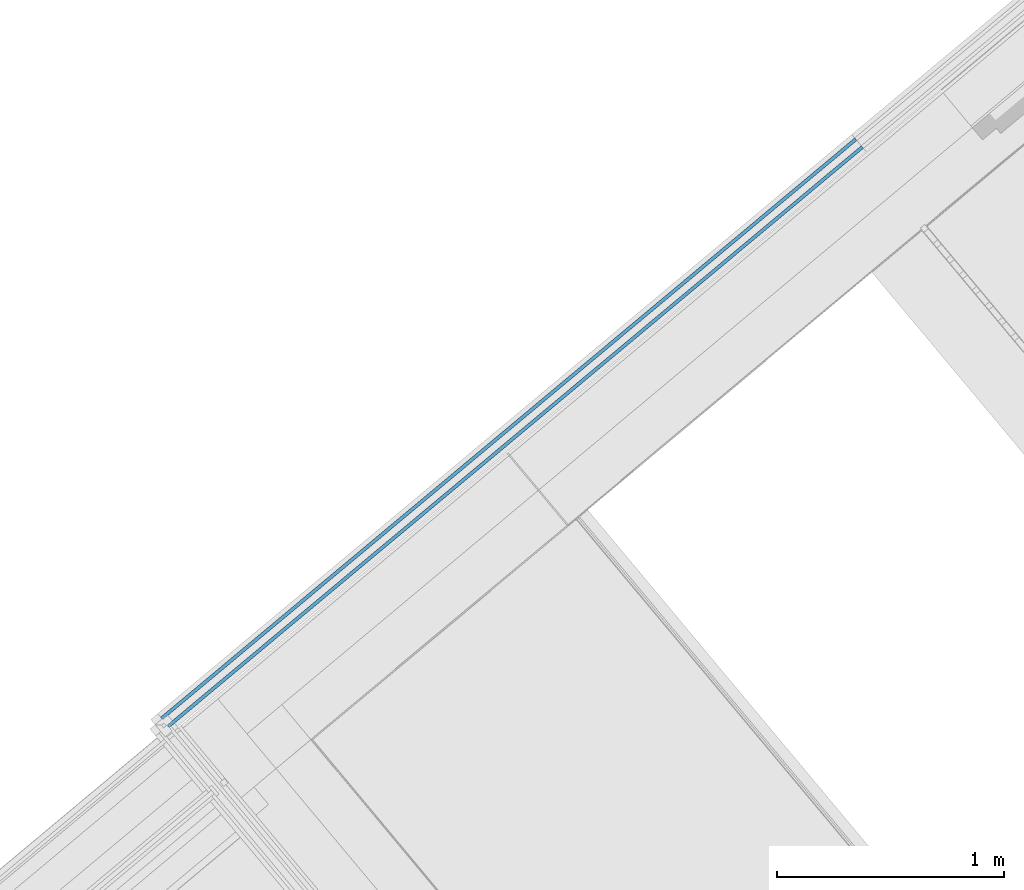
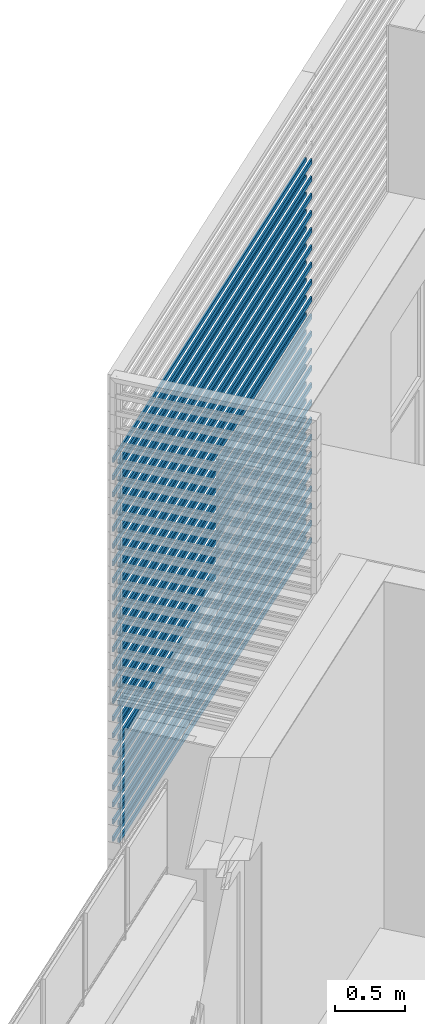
# One storey, part 22 of 47: 23 building element parts, 1 element without a shape of its own.
"""IFC4 building model written with IfcOpenShell, lengths in metres."""

from ifc_helpers import new_model, entity, si_unit, converted_unit, derived_unit, direction, frame, origin_with_axes, place, context, subcontext, project, spatial, polygons, material, type_object, element, aggregate, save


model = new_model("IFC4")

# Units and contexts
model_context = context("Model", 3, precision=1e-05, world=origin_with_axes(), true_north=direction((0.0, 1.0)))
body_context = subcontext(model_context, "Body", "Model", "MODEL_VIEW")
ifc_project = project(units=[si_unit("LENGTHUNIT", "METRE"), si_unit("AREAUNIT", "SQUARE_METRE"), si_unit("VOLUMEUNIT", "CUBIC_METRE"), converted_unit("PLANEANGLEUNIT", "DEGREE", entity("IfcPlaneAngleMeasure", 0.0174532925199), si_unit("PLANEANGLEUNIT", "RADIAN"), dimensions=[0, 0, 0, 0, 0, 0, 0]), converted_unit("TIMEUNIT", "Year", entity("IfcTimeMeasure", 31556926.0), si_unit("TIMEUNIT", "SECOND"), dimensions=[0, 0, 1, 0, 0, 0, 0]), si_unit("MASSUNIT", "GRAM", prefix="KILO"), si_unit("THERMODYNAMICTEMPERATUREUNIT", "DEGREE_CELSIUS"), si_unit("LUMINOUSINTENSITYUNIT", "LUMEN"), si_unit("ENERGYUNIT", "JOULE", prefix="MEGA"), derived_unit("THERMALCONDUCTANCEUNIT", [(si_unit("POWERUNIT", "WATT"), 1), (si_unit("LENGTHUNIT", "METRE"), -1), (si_unit("THERMODYNAMICTEMPERATUREUNIT", "KELVIN"), -1)]), derived_unit("SPECIFICHEATCAPACITYUNIT", [(si_unit("ENERGYUNIT", "JOULE"), 1), (si_unit("MASSUNIT", "GRAM", prefix="KILO"), -1), (si_unit("THERMODYNAMICTEMPERATUREUNIT", "KELVIN"), -1)]), derived_unit("MASSDENSITYUNIT", [(si_unit("MASSUNIT", "GRAM", prefix="KILO"), 1), (si_unit("VOLUMEUNIT", "CUBIC_METRE"), -1)])], contexts=[model_context])

# Site, building, storey
site_placement = place(None, frame((-0.00153261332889, -0.00661245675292, 0.0), z_axis=(0.0, 0.0, 1.0), x_axis=(1.0, 0.0, 0.0)))
site = spatial("IfcSite", under=ifc_project, at=site_placement, Name="Site", CompositionType="ELEMENT")
building_placement = place(site_placement, origin_with_axes())
building = spatial("IfcBuilding", under=site, at=building_placement, Name="Building", CompositionType="ELEMENT")
storey_placement = place(building_placement, frame((0.0, 0.0, 8.66), z_axis=(0.0, 0.0, 1.0), x_axis=(1.0, 0.0, 0.0)))
storey = spatial("IfcBuildingStorey", under=building, at=storey_placement, Name="DG2", CompositionType="ELEMENT", Elevation=8.66)

# Curtain wall, building element parts
curtain_wall_type = type_object("IfcCurtainWallType", Name="Fassadentyp", PredefinedType="NOTDEFINED")
curtain_wall_placement = place(storey_placement, frame((-2.95253507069, 23.8775371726, 0.32), z_axis=(0.0, 0.0, 1.0), x_axis=(1.0, 0.0, 0.0)))
curtain_wall = element("IfcCurtainWall", 1, at=curtain_wall_placement, inside=storey, type_object=curtain_wall_type, Name="Fassade-001", PredefinedType="NOTDEFINED")
ifc_material = material(Name="Blech")
building_element_part_1_placement = place(curtain_wall_placement, origin_with_axes())
building_element_part_1 = element("IfcBuildingElementPart", 2, at=building_element_part_1_placement, material=ifc_material, Name="Blech", PredefinedType="NOTDEFINED", context=body_context, shape_type="Tessellation", body=[
    polygons([(-1.51294866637, -1.28196990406, 0.3), (-1.51294866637, -1.28196990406, 0.32), (1.54752517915, 1.27174910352, 0.32), (1.54752517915, 1.27174910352, 0.3), (1.54752517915, 1.27174910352, 0.28), (-1.51294866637, -1.28196990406, 0.28), (-1.50333851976, -1.29348706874, 0.28), (-1.50333851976, -1.29348706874, 0.32), (1.55713532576, 1.26023193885, 0.32), (1.55713532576, 1.26023193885, 0.28)], [[[1, 2, 3, 4, 5, 6]], [[6, 7, 8, 2, 1]], [[3, 2, 8, 9]], [[4, 3, 9, 10, 5]], [[5, 10, 7, 6]], [[10, 9, 8, 7]]], closed=True),
    polygons([(1.52830488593, 1.29478343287, 0.28), (1.51869473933, 1.30630059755, 0.28), (1.51869473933, 1.30630059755, 0.32), (1.52830488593, 1.29478343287, 0.32), (1.52830488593, 1.29478343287, 0.3), (-1.53216895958, -1.25893557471, 0.28), (-1.54177910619, -1.24741841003, 0.28), (-1.54177910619, -1.24741841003, 0.32), (-1.53216895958, -1.25893557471, 0.32), (-1.53216895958, -1.25893557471, 0.3)], [[[1, 2, 3, 4, 5]], [[6, 7, 2, 1]], [[3, 2, 7, 8]], [[9, 4, 3, 8]], [[5, 4, 9, 10, 6, 1]], [[10, 9, 8, 7, 6]]], closed=True),
])
building_element_part_2_placement = place(curtain_wall_placement, origin_with_axes())
building_element_part_2 = element("IfcBuildingElementPart", 3, at=building_element_part_2_placement, material=ifc_material, Name="Blech", PredefinedType="NOTDEFINED", context=body_context, shape_type="Tessellation", body=[
    polygons([(-1.51294866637, -1.28196990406, 0.45), (-1.51294866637, -1.28196990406, 0.47), (1.54752517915, 1.27174910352, 0.47), (1.54752517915, 1.27174910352, 0.45), (1.54752517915, 1.27174910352, 0.43), (-1.51294866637, -1.28196990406, 0.43), (-1.50333851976, -1.29348706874, 0.43), (-1.50333851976, -1.29348706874, 0.47), (1.55713532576, 1.26023193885, 0.47), (1.55713532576, 1.26023193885, 0.43)], [[[1, 2, 3, 4, 5, 6]], [[6, 7, 8, 2, 1]], [[3, 2, 8, 9]], [[4, 3, 9, 10, 5]], [[5, 10, 7, 6]], [[10, 9, 8, 7]]], closed=True),
    polygons([(1.52830488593, 1.29478343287, 0.43), (1.51869473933, 1.30630059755, 0.43), (1.51869473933, 1.30630059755, 0.47), (1.52830488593, 1.29478343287, 0.47), (1.52830488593, 1.29478343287, 0.45), (-1.53216895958, -1.25893557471, 0.43), (-1.54177910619, -1.24741841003, 0.43), (-1.54177910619, -1.24741841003, 0.47), (-1.53216895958, -1.25893557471, 0.47), (-1.53216895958, -1.25893557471, 0.45)], [[[1, 2, 3, 4, 5]], [[6, 7, 2, 1]], [[3, 2, 7, 8]], [[9, 4, 3, 8]], [[5, 4, 9, 10, 6, 1]], [[10, 9, 8, 7, 6]]], closed=True),
])
building_element_part_3_placement = place(curtain_wall_placement, origin_with_axes())
building_element_part_3 = element("IfcBuildingElementPart", 4, at=building_element_part_3_placement, material=ifc_material, Name="Blech", PredefinedType="NOTDEFINED", context=body_context, shape_type="Tessellation", body=[
    polygons([(-1.51294866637, -1.28196990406, 0.6), (-1.51294866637, -1.28196990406, 0.62), (1.54752517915, 1.27174910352, 0.62), (1.54752517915, 1.27174910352, 0.6), (1.54752517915, 1.27174910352, 0.58), (-1.51294866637, -1.28196990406, 0.58), (-1.50333851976, -1.29348706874, 0.58), (-1.50333851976, -1.29348706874, 0.62), (1.55713532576, 1.26023193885, 0.62), (1.55713532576, 1.26023193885, 0.58)], [[[1, 2, 3, 4, 5, 6]], [[6, 7, 8, 2, 1]], [[3, 2, 8, 9]], [[4, 3, 9, 10, 5]], [[5, 10, 7, 6]], [[10, 9, 8, 7]]], closed=True),
    polygons([(1.52830488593, 1.29478343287, 0.58), (1.51869473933, 1.30630059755, 0.58), (1.51869473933, 1.30630059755, 0.62), (1.52830488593, 1.29478343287, 0.62), (1.52830488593, 1.29478343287, 0.6), (-1.53216895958, -1.25893557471, 0.58), (-1.54177910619, -1.24741841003, 0.58), (-1.54177910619, -1.24741841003, 0.62), (-1.53216895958, -1.25893557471, 0.62), (-1.53216895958, -1.25893557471, 0.6)], [[[1, 2, 3, 4, 5]], [[6, 7, 2, 1]], [[3, 2, 7, 8]], [[9, 4, 3, 8]], [[5, 4, 9, 10, 6, 1]], [[10, 9, 8, 7, 6]]], closed=True),
])
building_element_part_4_placement = place(curtain_wall_placement, origin_with_axes())
building_element_part_4 = element("IfcBuildingElementPart", 5, at=building_element_part_4_placement, material=ifc_material, Name="Blech", PredefinedType="NOTDEFINED", context=body_context, shape_type="Tessellation", body=[
    polygons([(-1.51294866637, -1.28196990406, 3.0), (-1.51294866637, -1.28196990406, 3.02), (1.54752517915, 1.27174910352, 3.02), (1.54752517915, 1.27174910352, 3.0), (1.54752517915, 1.27174910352, 2.98), (-1.51294866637, -1.28196990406, 2.98), (-1.50333851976, -1.29348706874, 2.98), (-1.50333851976, -1.29348706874, 3.02), (1.55713532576, 1.26023193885, 3.02), (1.55713532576, 1.26023193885, 2.98)], [[[1, 2, 3, 4, 5, 6]], [[6, 7, 8, 2, 1]], [[3, 2, 8, 9]], [[4, 3, 9, 10, 5]], [[5, 10, 7, 6]], [[10, 9, 8, 7]]], closed=True),
    polygons([(1.52830488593, 1.29478343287, 2.98), (1.51869473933, 1.30630059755, 2.98), (1.51869473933, 1.30630059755, 3.02), (1.52830488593, 1.29478343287, 3.02), (1.52830488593, 1.29478343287, 3.0), (-1.53216895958, -1.25893557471, 2.98), (-1.54177910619, -1.24741841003, 2.98), (-1.54177910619, -1.24741841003, 3.02), (-1.53216895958, -1.25893557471, 3.02), (-1.53216895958, -1.25893557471, 3.0)], [[[1, 2, 3, 4, 5]], [[6, 7, 2, 1]], [[3, 2, 7, 8]], [[9, 4, 3, 8]], [[5, 4, 9, 10, 6, 1]], [[10, 9, 8, 7, 6]]], closed=True),
])
building_element_part_5_placement = place(curtain_wall_placement, origin_with_axes())
building_element_part_5 = element("IfcBuildingElementPart", 6, at=building_element_part_5_placement, material=ifc_material, Name="Blech", PredefinedType="NOTDEFINED", context=body_context, shape_type="Tessellation", body=[
    polygons([(-1.51294866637, -1.28196990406, 2.85), (-1.51294866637, -1.28196990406, 2.87), (1.54752517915, 1.27174910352, 2.87), (1.54752517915, 1.27174910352, 2.85), (1.54752517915, 1.27174910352, 2.83), (-1.51294866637, -1.28196990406, 2.83), (-1.50333851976, -1.29348706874, 2.83), (-1.50333851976, -1.29348706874, 2.87), (1.55713532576, 1.26023193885, 2.87), (1.55713532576, 1.26023193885, 2.83)], [[[1, 2, 3, 4, 5, 6]], [[6, 7, 8, 2, 1]], [[3, 2, 8, 9]], [[4, 3, 9, 10, 5]], [[5, 10, 7, 6]], [[10, 9, 8, 7]]], closed=True),
    polygons([(1.52830488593, 1.29478343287, 2.83), (1.51869473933, 1.30630059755, 2.83), (1.51869473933, 1.30630059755, 2.87), (1.52830488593, 1.29478343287, 2.87), (1.52830488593, 1.29478343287, 2.85), (-1.53216895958, -1.25893557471, 2.83), (-1.54177910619, -1.24741841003, 2.83), (-1.54177910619, -1.24741841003, 2.87), (-1.53216895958, -1.25893557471, 2.87), (-1.53216895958, -1.25893557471, 2.85)], [[[1, 2, 3, 4, 5]], [[6, 7, 2, 1]], [[3, 2, 7, 8]], [[9, 4, 3, 8]], [[5, 4, 9, 10, 6, 1]], [[10, 9, 8, 7, 6]]], closed=True),
])
building_element_part_6_placement = place(curtain_wall_placement, origin_with_axes())
building_element_part_6 = element("IfcBuildingElementPart", 7, at=building_element_part_6_placement, material=ifc_material, Name="Blech", PredefinedType="NOTDEFINED", context=body_context, shape_type="Tessellation", body=[
    polygons([(-1.51294866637, -1.28196990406, 0.75), (-1.51294866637, -1.28196990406, 0.77), (1.54752517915, 1.27174910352, 0.77), (1.54752517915, 1.27174910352, 0.75), (1.54752517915, 1.27174910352, 0.73), (-1.51294866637, -1.28196990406, 0.73), (-1.50333851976, -1.29348706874, 0.73), (-1.50333851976, -1.29348706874, 0.77), (1.55713532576, 1.26023193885, 0.77), (1.55713532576, 1.26023193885, 0.73)], [[[1, 2, 3, 4, 5, 6]], [[6, 7, 8, 2, 1]], [[3, 2, 8, 9]], [[4, 3, 9, 10, 5]], [[5, 10, 7, 6]], [[10, 9, 8, 7]]], closed=True),
    polygons([(1.52830488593, 1.29478343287, 0.73), (1.51869473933, 1.30630059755, 0.73), (1.51869473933, 1.30630059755, 0.77), (1.52830488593, 1.29478343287, 0.77), (1.52830488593, 1.29478343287, 0.75), (-1.53216895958, -1.25893557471, 0.73), (-1.54177910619, -1.24741841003, 0.73), (-1.54177910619, -1.24741841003, 0.77), (-1.53216895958, -1.25893557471, 0.77), (-1.53216895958, -1.25893557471, 0.75)], [[[1, 2, 3, 4, 5]], [[6, 7, 2, 1]], [[3, 2, 7, 8]], [[9, 4, 3, 8]], [[5, 4, 9, 10, 6, 1]], [[10, 9, 8, 7, 6]]], closed=True),
])
building_element_part_7_placement = place(curtain_wall_placement, origin_with_axes())
building_element_part_7 = element("IfcBuildingElementPart", 8, at=building_element_part_7_placement, material=ifc_material, Name="Blech", PredefinedType="NOTDEFINED", context=body_context, shape_type="Tessellation", body=[
    polygons([(-1.51294866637, -1.28196990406, 2.25), (-1.51294866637, -1.28196990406, 2.27), (1.54752517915, 1.27174910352, 2.27), (1.54752517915, 1.27174910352, 2.25), (1.54752517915, 1.27174910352, 2.23), (-1.51294866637, -1.28196990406, 2.23), (-1.50333851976, -1.29348706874, 2.23), (-1.50333851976, -1.29348706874, 2.27), (1.55713532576, 1.26023193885, 2.27), (1.55713532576, 1.26023193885, 2.23)], [[[1, 2, 3, 4, 5, 6]], [[6, 7, 8, 2, 1]], [[3, 2, 8, 9]], [[4, 3, 9, 10, 5]], [[5, 10, 7, 6]], [[10, 9, 8, 7]]], closed=True),
    polygons([(1.52830488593, 1.29478343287, 2.23), (1.51869473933, 1.30630059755, 2.23), (1.51869473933, 1.30630059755, 2.27), (1.52830488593, 1.29478343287, 2.27), (1.52830488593, 1.29478343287, 2.25), (-1.53216895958, -1.25893557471, 2.23), (-1.54177910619, -1.24741841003, 2.23), (-1.54177910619, -1.24741841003, 2.27), (-1.53216895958, -1.25893557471, 2.27), (-1.53216895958, -1.25893557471, 2.25)], [[[1, 2, 3, 4, 5]], [[6, 7, 2, 1]], [[3, 2, 7, 8]], [[9, 4, 3, 8]], [[5, 4, 9, 10, 6, 1]], [[10, 9, 8, 7, 6]]], closed=True),
])
building_element_part_8_placement = place(curtain_wall_placement, origin_with_axes())
building_element_part_8 = element("IfcBuildingElementPart", 9, at=building_element_part_8_placement, material=ifc_material, Name="Blech", PredefinedType="NOTDEFINED", context=body_context, shape_type="Tessellation", body=[
    polygons([(-1.51294866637, -1.28196990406, 0.9), (-1.51294866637, -1.28196990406, 0.92), (1.54752517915, 1.27174910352, 0.92), (1.54752517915, 1.27174910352, 0.9), (1.54752517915, 1.27174910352, 0.88), (-1.51294866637, -1.28196990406, 0.88), (-1.50333851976, -1.29348706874, 0.88), (-1.50333851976, -1.29348706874, 0.92), (1.55713532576, 1.26023193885, 0.92), (1.55713532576, 1.26023193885, 0.88)], [[[1, 2, 3, 4, 5, 6]], [[6, 7, 8, 2, 1]], [[3, 2, 8, 9]], [[4, 3, 9, 10, 5]], [[5, 10, 7, 6]], [[10, 9, 8, 7]]], closed=True),
    polygons([(1.52830488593, 1.29478343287, 0.88), (1.51869473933, 1.30630059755, 0.88), (1.51869473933, 1.30630059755, 0.92), (1.52830488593, 1.29478343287, 0.92), (1.52830488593, 1.29478343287, 0.9), (-1.53216895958, -1.25893557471, 0.88), (-1.54177910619, -1.24741841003, 0.88), (-1.54177910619, -1.24741841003, 0.92), (-1.53216895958, -1.25893557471, 0.92), (-1.53216895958, -1.25893557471, 0.9)], [[[1, 2, 3, 4, 5]], [[6, 7, 2, 1]], [[3, 2, 7, 8]], [[9, 4, 3, 8]], [[5, 4, 9, 10, 6, 1]], [[10, 9, 8, 7, 6]]], closed=True),
])
building_element_part_9_placement = place(curtain_wall_placement, origin_with_axes())
building_element_part_9 = element("IfcBuildingElementPart", 10, at=building_element_part_9_placement, material=ifc_material, Name="Blech", PredefinedType="NOTDEFINED", context=body_context, shape_type="Tessellation", body=[
    polygons([(-1.51294866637, -1.28196990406, 1.05), (-1.51294866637, -1.28196990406, 1.07), (1.54752517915, 1.27174910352, 1.07), (1.54752517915, 1.27174910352, 1.05), (1.54752517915, 1.27174910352, 1.03), (-1.51294866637, -1.28196990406, 1.03), (-1.50333851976, -1.29348706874, 1.03), (-1.50333851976, -1.29348706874, 1.07), (1.55713532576, 1.26023193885, 1.07), (1.55713532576, 1.26023193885, 1.03)], [[[1, 2, 3, 4, 5, 6]], [[6, 7, 8, 2, 1]], [[3, 2, 8, 9]], [[4, 3, 9, 10, 5]], [[5, 10, 7, 6]], [[10, 9, 8, 7]]], closed=True),
    polygons([(1.52830488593, 1.29478343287, 1.03), (1.51869473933, 1.30630059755, 1.03), (1.51869473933, 1.30630059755, 1.07), (1.52830488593, 1.29478343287, 1.07), (1.52830488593, 1.29478343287, 1.05), (-1.53216895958, -1.25893557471, 1.03), (-1.54177910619, -1.24741841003, 1.03), (-1.54177910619, -1.24741841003, 1.07), (-1.53216895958, -1.25893557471, 1.07), (-1.53216895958, -1.25893557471, 1.05)], [[[1, 2, 3, 4, 5]], [[6, 7, 2, 1]], [[3, 2, 7, 8]], [[9, 4, 3, 8]], [[5, 4, 9, 10, 6, 1]], [[10, 9, 8, 7, 6]]], closed=True),
])
building_element_part_10_placement = place(curtain_wall_placement, origin_with_axes())
building_element_part_10 = element("IfcBuildingElementPart", 11, at=building_element_part_10_placement, material=ifc_material, Name="Blech", PredefinedType="NOTDEFINED", context=body_context, shape_type="Tessellation", body=[
    polygons([(-1.51294866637, -1.28196990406, 1.2), (-1.51294866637, -1.28196990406, 1.22), (1.54752517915, 1.27174910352, 1.22), (1.54752517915, 1.27174910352, 1.2), (1.54752517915, 1.27174910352, 1.18), (-1.51294866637, -1.28196990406, 1.18), (-1.50333851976, -1.29348706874, 1.18), (-1.50333851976, -1.29348706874, 1.22), (1.55713532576, 1.26023193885, 1.22), (1.55713532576, 1.26023193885, 1.18)], [[[1, 2, 3, 4, 5, 6]], [[6, 7, 8, 2, 1]], [[3, 2, 8, 9]], [[4, 3, 9, 10, 5]], [[5, 10, 7, 6]], [[10, 9, 8, 7]]], closed=True),
    polygons([(1.52830488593, 1.29478343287, 1.18), (1.51869473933, 1.30630059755, 1.18), (1.51869473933, 1.30630059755, 1.22), (1.52830488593, 1.29478343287, 1.22), (1.52830488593, 1.29478343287, 1.2), (-1.53216895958, -1.25893557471, 1.18), (-1.54177910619, -1.24741841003, 1.18), (-1.54177910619, -1.24741841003, 1.22), (-1.53216895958, -1.25893557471, 1.22), (-1.53216895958, -1.25893557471, 1.2)], [[[1, 2, 3, 4, 5]], [[6, 7, 2, 1]], [[3, 2, 7, 8]], [[9, 4, 3, 8]], [[5, 4, 9, 10, 6, 1]], [[10, 9, 8, 7, 6]]], closed=True),
])
building_element_part_11_placement = place(curtain_wall_placement, origin_with_axes())
building_element_part_11 = element("IfcBuildingElementPart", 12, at=building_element_part_11_placement, material=ifc_material, Name="Blech", PredefinedType="NOTDEFINED", context=body_context, shape_type="Tessellation", body=[
    polygons([(-1.51294866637, -1.28196990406, 2.7), (-1.51294866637, -1.28196990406, 2.72), (1.54752517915, 1.27174910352, 2.72), (1.54752517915, 1.27174910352, 2.7), (1.54752517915, 1.27174910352, 2.68), (-1.51294866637, -1.28196990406, 2.68), (-1.50333851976, -1.29348706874, 2.68), (-1.50333851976, -1.29348706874, 2.72), (1.55713532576, 1.26023193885, 2.72), (1.55713532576, 1.26023193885, 2.68)], [[[1, 2, 3, 4, 5, 6]], [[6, 7, 8, 2, 1]], [[3, 2, 8, 9]], [[4, 3, 9, 10, 5]], [[5, 10, 7, 6]], [[10, 9, 8, 7]]], closed=True),
    polygons([(1.52830488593, 1.29478343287, 2.68), (1.51869473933, 1.30630059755, 2.68), (1.51869473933, 1.30630059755, 2.72), (1.52830488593, 1.29478343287, 2.72), (1.52830488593, 1.29478343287, 2.7), (-1.53216895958, -1.25893557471, 2.68), (-1.54177910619, -1.24741841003, 2.68), (-1.54177910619, -1.24741841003, 2.72), (-1.53216895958, -1.25893557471, 2.72), (-1.53216895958, -1.25893557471, 2.7)], [[[1, 2, 3, 4, 5]], [[6, 7, 2, 1]], [[3, 2, 7, 8]], [[9, 4, 3, 8]], [[5, 4, 9, 10, 6, 1]], [[10, 9, 8, 7, 6]]], closed=True),
])
building_element_part_12_placement = place(curtain_wall_placement, origin_with_axes())
building_element_part_12 = element("IfcBuildingElementPart", 13, at=building_element_part_12_placement, material=ifc_material, Name="Blech", PredefinedType="NOTDEFINED", context=body_context, shape_type="Tessellation", body=[
    polygons([(-1.51294866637, -1.28196990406, 1.35), (-1.51294866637, -1.28196990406, 1.37), (1.54752517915, 1.27174910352, 1.37), (1.54752517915, 1.27174910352, 1.35), (1.54752517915, 1.27174910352, 1.33), (-1.51294866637, -1.28196990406, 1.33), (-1.50333851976, -1.29348706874, 1.33), (-1.50333851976, -1.29348706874, 1.37), (1.55713532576, 1.26023193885, 1.37), (1.55713532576, 1.26023193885, 1.33)], [[[1, 2, 3, 4, 5, 6]], [[6, 7, 8, 2, 1]], [[3, 2, 8, 9]], [[4, 3, 9, 10, 5]], [[5, 10, 7, 6]], [[10, 9, 8, 7]]], closed=True),
    polygons([(1.52830488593, 1.29478343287, 1.33), (1.51869473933, 1.30630059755, 1.33), (1.51869473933, 1.30630059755, 1.37), (1.52830488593, 1.29478343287, 1.37), (1.52830488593, 1.29478343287, 1.35), (-1.53216895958, -1.25893557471, 1.33), (-1.54177910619, -1.24741841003, 1.33), (-1.54177910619, -1.24741841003, 1.37), (-1.53216895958, -1.25893557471, 1.37), (-1.53216895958, -1.25893557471, 1.35)], [[[1, 2, 3, 4, 5]], [[6, 7, 2, 1]], [[3, 2, 7, 8]], [[9, 4, 3, 8]], [[5, 4, 9, 10, 6, 1]], [[10, 9, 8, 7, 6]]], closed=True),
])
building_element_part_13_placement = place(curtain_wall_placement, origin_with_axes())
building_element_part_13 = element("IfcBuildingElementPart", 14, at=building_element_part_13_placement, material=ifc_material, Name="Blech", PredefinedType="NOTDEFINED", context=body_context, shape_type="Tessellation", body=[
    polygons([(-1.51294866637, -1.28196990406, 1.5), (-1.51294866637, -1.28196990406, 1.52), (1.54752517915, 1.27174910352, 1.52), (1.54752517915, 1.27174910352, 1.5), (1.54752517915, 1.27174910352, 1.48), (-1.51294866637, -1.28196990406, 1.48), (-1.50333851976, -1.29348706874, 1.48), (-1.50333851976, -1.29348706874, 1.52), (1.55713532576, 1.26023193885, 1.52), (1.55713532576, 1.26023193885, 1.48)], [[[1, 2, 3, 4, 5, 6]], [[6, 7, 8, 2, 1]], [[3, 2, 8, 9]], [[4, 3, 9, 10, 5]], [[5, 10, 7, 6]], [[10, 9, 8, 7]]], closed=True),
    polygons([(1.52830488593, 1.29478343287, 1.48), (1.51869473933, 1.30630059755, 1.48), (1.51869473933, 1.30630059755, 1.52), (1.52830488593, 1.29478343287, 1.52), (1.52830488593, 1.29478343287, 1.5), (-1.53216895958, -1.25893557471, 1.48), (-1.54177910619, -1.24741841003, 1.48), (-1.54177910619, -1.24741841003, 1.52), (-1.53216895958, -1.25893557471, 1.52), (-1.53216895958, -1.25893557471, 1.5)], [[[1, 2, 3, 4, 5]], [[6, 7, 2, 1]], [[3, 2, 7, 8]], [[9, 4, 3, 8]], [[5, 4, 9, 10, 6, 1]], [[10, 9, 8, 7, 6]]], closed=True),
])
building_element_part_14_placement = place(curtain_wall_placement, origin_with_axes())
building_element_part_14 = element("IfcBuildingElementPart", 15, at=building_element_part_14_placement, material=ifc_material, Name="Blech", PredefinedType="NOTDEFINED", context=body_context, shape_type="Tessellation", body=[
    polygons([(-1.51294866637, -1.28196990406, 1.65), (-1.51294866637, -1.28196990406, 1.67), (1.54752517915, 1.27174910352, 1.67), (1.54752517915, 1.27174910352, 1.65), (1.54752517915, 1.27174910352, 1.63), (-1.51294866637, -1.28196990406, 1.63), (-1.50333851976, -1.29348706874, 1.63), (-1.50333851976, -1.29348706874, 1.67), (1.55713532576, 1.26023193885, 1.67), (1.55713532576, 1.26023193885, 1.63)], [[[1, 2, 3, 4, 5, 6]], [[6, 7, 8, 2, 1]], [[3, 2, 8, 9]], [[4, 3, 9, 10, 5]], [[5, 10, 7, 6]], [[10, 9, 8, 7]]], closed=True),
    polygons([(1.52830488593, 1.29478343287, 1.63), (1.51869473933, 1.30630059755, 1.63), (1.51869473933, 1.30630059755, 1.67), (1.52830488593, 1.29478343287, 1.67), (1.52830488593, 1.29478343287, 1.65), (-1.53216895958, -1.25893557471, 1.63), (-1.54177910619, -1.24741841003, 1.63), (-1.54177910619, -1.24741841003, 1.67), (-1.53216895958, -1.25893557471, 1.67), (-1.53216895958, -1.25893557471, 1.65)], [[[1, 2, 3, 4, 5]], [[6, 7, 2, 1]], [[3, 2, 7, 8]], [[9, 4, 3, 8]], [[5, 4, 9, 10, 6, 1]], [[10, 9, 8, 7, 6]]], closed=True),
])
building_element_part_15_placement = place(curtain_wall_placement, origin_with_axes())
building_element_part_15 = element("IfcBuildingElementPart", 16, at=building_element_part_15_placement, material=ifc_material, Name="Blech", PredefinedType="NOTDEFINED", context=body_context, shape_type="Tessellation", body=[
    polygons([(-1.51294866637, -1.28196990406, 2.55), (-1.51294866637, -1.28196990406, 2.57), (1.54752517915, 1.27174910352, 2.57), (1.54752517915, 1.27174910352, 2.55), (1.54752517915, 1.27174910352, 2.53), (-1.51294866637, -1.28196990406, 2.53), (-1.50333851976, -1.29348706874, 2.53), (-1.50333851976, -1.29348706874, 2.57), (1.55713532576, 1.26023193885, 2.57), (1.55713532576, 1.26023193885, 2.53)], [[[1, 2, 3, 4, 5, 6]], [[6, 7, 8, 2, 1]], [[3, 2, 8, 9]], [[4, 3, 9, 10, 5]], [[5, 10, 7, 6]], [[10, 9, 8, 7]]], closed=True),
    polygons([(1.52830488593, 1.29478343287, 2.53), (1.51869473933, 1.30630059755, 2.53), (1.51869473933, 1.30630059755, 2.57), (1.52830488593, 1.29478343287, 2.57), (1.52830488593, 1.29478343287, 2.55), (-1.53216895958, -1.25893557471, 2.53), (-1.54177910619, -1.24741841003, 2.53), (-1.54177910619, -1.24741841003, 2.57), (-1.53216895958, -1.25893557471, 2.57), (-1.53216895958, -1.25893557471, 2.55)], [[[1, 2, 3, 4, 5]], [[6, 7, 2, 1]], [[3, 2, 7, 8]], [[9, 4, 3, 8]], [[5, 4, 9, 10, 6, 1]], [[10, 9, 8, 7, 6]]], closed=True),
])
building_element_part_16_placement = place(curtain_wall_placement, origin_with_axes())
building_element_part_16 = element("IfcBuildingElementPart", 17, at=building_element_part_16_placement, material=ifc_material, Name="Blech", PredefinedType="NOTDEFINED", context=body_context, shape_type="Tessellation", body=[
    polygons([(-1.51294866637, -1.28196990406, 1.8), (-1.51294866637, -1.28196990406, 1.82), (1.54752517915, 1.27174910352, 1.82), (1.54752517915, 1.27174910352, 1.8), (1.54752517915, 1.27174910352, 1.78), (-1.51294866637, -1.28196990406, 1.78), (-1.50333851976, -1.29348706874, 1.78), (-1.50333851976, -1.29348706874, 1.82), (1.55713532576, 1.26023193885, 1.82), (1.55713532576, 1.26023193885, 1.78)], [[[1, 2, 3, 4, 5, 6]], [[6, 7, 8, 2, 1]], [[3, 2, 8, 9]], [[4, 3, 9, 10, 5]], [[5, 10, 7, 6]], [[10, 9, 8, 7]]], closed=True),
    polygons([(1.52830488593, 1.29478343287, 1.78), (1.51869473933, 1.30630059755, 1.78), (1.51869473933, 1.30630059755, 1.82), (1.52830488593, 1.29478343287, 1.82), (1.52830488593, 1.29478343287, 1.8), (-1.53216895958, -1.25893557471, 1.78), (-1.54177910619, -1.24741841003, 1.78), (-1.54177910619, -1.24741841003, 1.82), (-1.53216895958, -1.25893557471, 1.82), (-1.53216895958, -1.25893557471, 1.8)], [[[1, 2, 3, 4, 5]], [[6, 7, 2, 1]], [[3, 2, 7, 8]], [[9, 4, 3, 8]], [[5, 4, 9, 10, 6, 1]], [[10, 9, 8, 7, 6]]], closed=True),
])
building_element_part_17_placement = place(curtain_wall_placement, origin_with_axes())
building_element_part_17 = element("IfcBuildingElementPart", 18, at=building_element_part_17_placement, material=ifc_material, Name="Blech", PredefinedType="NOTDEFINED", context=body_context, shape_type="Tessellation", body=[
    polygons([(-1.51294866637, -1.28196990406, 2.4), (-1.51294866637, -1.28196990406, 2.42), (1.54752517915, 1.27174910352, 2.42), (1.54752517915, 1.27174910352, 2.4), (1.54752517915, 1.27174910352, 2.38), (-1.51294866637, -1.28196990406, 2.38), (-1.50333851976, -1.29348706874, 2.38), (-1.50333851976, -1.29348706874, 2.42), (1.55713532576, 1.26023193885, 2.42), (1.55713532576, 1.26023193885, 2.38)], [[[1, 2, 3, 4, 5, 6]], [[6, 7, 8, 2, 1]], [[3, 2, 8, 9]], [[4, 3, 9, 10, 5]], [[5, 10, 7, 6]], [[10, 9, 8, 7]]], closed=True),
    polygons([(1.52830488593, 1.29478343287, 2.38), (1.51869473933, 1.30630059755, 2.38), (1.51869473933, 1.30630059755, 2.42), (1.52830488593, 1.29478343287, 2.42), (1.52830488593, 1.29478343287, 2.4), (-1.53216895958, -1.25893557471, 2.38), (-1.54177910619, -1.24741841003, 2.38), (-1.54177910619, -1.24741841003, 2.42), (-1.53216895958, -1.25893557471, 2.42), (-1.53216895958, -1.25893557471, 2.4)], [[[1, 2, 3, 4, 5]], [[6, 7, 2, 1]], [[3, 2, 7, 8]], [[9, 4, 3, 8]], [[5, 4, 9, 10, 6, 1]], [[10, 9, 8, 7, 6]]], closed=True),
])
building_element_part_18_placement = place(curtain_wall_placement, origin_with_axes())
building_element_part_18 = element("IfcBuildingElementPart", 19, at=building_element_part_18_placement, material=ifc_material, Name="Blech", PredefinedType="NOTDEFINED", context=body_context, shape_type="Tessellation", body=[
    polygons([(-1.51294866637, -1.28196990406, 1.95), (-1.51294866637, -1.28196990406, 1.97), (1.54752517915, 1.27174910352, 1.97), (1.54752517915, 1.27174910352, 1.95), (1.54752517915, 1.27174910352, 1.93), (-1.51294866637, -1.28196990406, 1.93), (-1.50333851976, -1.29348706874, 1.93), (-1.50333851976, -1.29348706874, 1.97), (1.55713532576, 1.26023193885, 1.97), (1.55713532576, 1.26023193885, 1.93)], [[[1, 2, 3, 4, 5, 6]], [[6, 7, 8, 2, 1]], [[3, 2, 8, 9]], [[4, 3, 9, 10, 5]], [[5, 10, 7, 6]], [[10, 9, 8, 7]]], closed=True),
    polygons([(1.52830488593, 1.29478343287, 1.93), (1.51869473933, 1.30630059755, 1.93), (1.51869473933, 1.30630059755, 1.97), (1.52830488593, 1.29478343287, 1.97), (1.52830488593, 1.29478343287, 1.95), (-1.53216895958, -1.25893557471, 1.93), (-1.54177910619, -1.24741841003, 1.93), (-1.54177910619, -1.24741841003, 1.97), (-1.53216895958, -1.25893557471, 1.97), (-1.53216895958, -1.25893557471, 1.95)], [[[1, 2, 3, 4, 5]], [[6, 7, 2, 1]], [[3, 2, 7, 8]], [[9, 4, 3, 8]], [[5, 4, 9, 10, 6, 1]], [[10, 9, 8, 7, 6]]], closed=True),
])
building_element_part_19_placement = place(curtain_wall_placement, origin_with_axes())
building_element_part_19 = element("IfcBuildingElementPart", 20, at=building_element_part_19_placement, material=ifc_material, Name="Blech", PredefinedType="NOTDEFINED", context=body_context, shape_type="Tessellation", body=[
    polygons([(-1.51294866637, -1.28196990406, 2.1), (-1.51294866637, -1.28196990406, 2.12), (1.54752517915, 1.27174910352, 2.12), (1.54752517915, 1.27174910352, 2.1), (1.54752517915, 1.27174910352, 2.08), (-1.51294866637, -1.28196990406, 2.08), (-1.50333851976, -1.29348706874, 2.08), (-1.50333851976, -1.29348706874, 2.12), (1.55713532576, 1.26023193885, 2.12), (1.55713532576, 1.26023193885, 2.08)], [[[1, 2, 3, 4, 5, 6]], [[6, 7, 8, 2, 1]], [[3, 2, 8, 9]], [[4, 3, 9, 10, 5]], [[5, 10, 7, 6]], [[10, 9, 8, 7]]], closed=True),
    polygons([(1.52830488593, 1.29478343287, 2.08), (1.51869473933, 1.30630059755, 2.08), (1.51869473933, 1.30630059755, 2.12), (1.52830488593, 1.29478343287, 2.12), (1.52830488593, 1.29478343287, 2.1), (-1.53216895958, -1.25893557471, 2.08), (-1.54177910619, -1.24741841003, 2.08), (-1.54177910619, -1.24741841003, 2.12), (-1.53216895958, -1.25893557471, 2.12), (-1.53216895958, -1.25893557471, 2.1)], [[[1, 2, 3, 4, 5]], [[6, 7, 2, 1]], [[3, 2, 7, 8]], [[9, 4, 3, 8]], [[5, 4, 9, 10, 6, 1]], [[10, 9, 8, 7, 6]]], closed=True),
])
building_element_part_20_placement = place(curtain_wall_placement, origin_with_axes())
building_element_part_20 = element("IfcBuildingElementPart", 21, at=building_element_part_20_placement, material=ifc_material, Name="Blech", PredefinedType="NOTDEFINED", context=body_context, shape_type="Tessellation", body=[
    polygons([(-1.51294866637, -1.28196990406, 3.15), (-1.51294866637, -1.28196990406, 3.17), (1.54752517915, 1.27174910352, 3.17), (1.54752517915, 1.27174910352, 3.15), (1.54752517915, 1.27174910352, 3.13), (-1.51294866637, -1.28196990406, 3.13), (-1.50333851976, -1.29348706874, 3.13), (-1.50333851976, -1.29348706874, 3.17), (1.55713532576, 1.26023193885, 3.17), (1.55713532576, 1.26023193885, 3.13)], [[[1, 2, 3, 4, 5, 6]], [[6, 7, 8, 2, 1]], [[3, 2, 8, 9]], [[4, 3, 9, 10, 5]], [[5, 10, 7, 6]], [[10, 9, 8, 7]]], closed=True),
    polygons([(1.52830488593, 1.29478343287, 3.13), (1.51869473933, 1.30630059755, 3.13), (1.51869473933, 1.30630059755, 3.17), (1.52830488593, 1.29478343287, 3.17), (1.52830488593, 1.29478343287, 3.15), (-1.53216895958, -1.25893557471, 3.13), (-1.54177910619, -1.24741841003, 3.13), (-1.54177910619, -1.24741841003, 3.17), (-1.53216895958, -1.25893557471, 3.17), (-1.53216895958, -1.25893557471, 3.15)], [[[1, 2, 3, 4, 5]], [[6, 7, 2, 1]], [[3, 2, 7, 8]], [[9, 4, 3, 8]], [[5, 4, 9, 10, 6, 1]], [[10, 9, 8, 7, 6]]], closed=True),
])
building_element_part_21_placement = place(curtain_wall_placement, origin_with_axes())
building_element_part_21 = element("IfcBuildingElementPart", 22, at=building_element_part_21_placement, material=ifc_material, Name="Blech", PredefinedType="NOTDEFINED", context=body_context, shape_type="Tessellation", body=[
    polygons([(-1.51294866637, -1.28196990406, 3.3), (-1.51294866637, -1.28196990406, 3.32), (1.54752517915, 1.27174910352, 3.32), (1.54752517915, 1.27174910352, 3.3), (1.54752517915, 1.27174910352, 3.28), (-1.51294866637, -1.28196990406, 3.28), (-1.50333851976, -1.29348706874, 3.28), (-1.50333851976, -1.29348706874, 3.32), (1.55713532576, 1.26023193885, 3.32), (1.55713532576, 1.26023193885, 3.28)], [[[1, 2, 3, 4, 5, 6]], [[6, 7, 8, 2, 1]], [[3, 2, 8, 9]], [[4, 3, 9, 10, 5]], [[5, 10, 7, 6]], [[10, 9, 8, 7]]], closed=True),
    polygons([(1.52830488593, 1.29478343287, 3.28), (1.51869473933, 1.30630059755, 3.28), (1.51869473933, 1.30630059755, 3.32), (1.52830488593, 1.29478343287, 3.32), (1.52830488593, 1.29478343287, 3.3), (-1.53216895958, -1.25893557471, 3.28), (-1.54177910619, -1.24741841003, 3.28), (-1.54177910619, -1.24741841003, 3.32), (-1.53216895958, -1.25893557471, 3.32), (-1.53216895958, -1.25893557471, 3.3)], [[[1, 2, 3, 4, 5]], [[6, 7, 2, 1]], [[3, 2, 7, 8]], [[9, 4, 3, 8]], [[5, 4, 9, 10, 6, 1]], [[10, 9, 8, 7, 6]]], closed=True),
])
building_element_part_22_placement = place(curtain_wall_placement, origin_with_axes())
building_element_part_22 = element("IfcBuildingElementPart", 23, at=building_element_part_22_placement, material=ifc_material, Name="Blech", PredefinedType="NOTDEFINED", context=body_context, shape_type="Tessellation", body=[
    polygons([(-1.51294866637, -1.28196990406, 3.45), (-1.51294866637, -1.28196990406, 3.47), (1.54752517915, 1.27174910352, 3.47), (1.54752517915, 1.27174910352, 3.45), (1.54752517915, 1.27174910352, 3.43), (-1.51294866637, -1.28196990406, 3.43), (-1.50333851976, -1.29348706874, 3.43), (-1.50333851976, -1.29348706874, 3.47), (1.55713532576, 1.26023193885, 3.47), (1.55713532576, 1.26023193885, 3.43)], [[[1, 2, 3, 4, 5, 6]], [[6, 7, 8, 2, 1]], [[3, 2, 8, 9]], [[4, 3, 9, 10, 5]], [[5, 10, 7, 6]], [[10, 9, 8, 7]]], closed=True),
    polygons([(1.52830488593, 1.29478343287, 3.43), (1.51869473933, 1.30630059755, 3.43), (1.51869473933, 1.30630059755, 3.47), (1.52830488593, 1.29478343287, 3.47), (1.52830488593, 1.29478343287, 3.45), (-1.53216895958, -1.25893557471, 3.43), (-1.54177910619, -1.24741841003, 3.43), (-1.54177910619, -1.24741841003, 3.47), (-1.53216895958, -1.25893557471, 3.47), (-1.53216895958, -1.25893557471, 3.45)], [[[1, 2, 3, 4, 5]], [[6, 7, 2, 1]], [[3, 2, 7, 8]], [[9, 4, 3, 8]], [[5, 4, 9, 10, 6, 1]], [[10, 9, 8, 7, 6]]], closed=True),
])
building_element_part_23_placement = place(curtain_wall_placement, origin_with_axes())
building_element_part_23 = element("IfcBuildingElementPart", 24, at=building_element_part_23_placement, material=ifc_material, Name="Blech", PredefinedType="NOTDEFINED", context=body_context, shape_type="Tessellation", body=[
    polygons([(-1.51294866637, -1.28196990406, 3.6), (-1.51294866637, -1.28196990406, 3.62), (1.54752517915, 1.27174910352, 3.62), (1.54752517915, 1.27174910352, 3.6), (1.54752517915, 1.27174910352, 3.58), (-1.51294866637, -1.28196990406, 3.58), (-1.50333851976, -1.29348706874, 3.58), (-1.50333851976, -1.29348706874, 3.62), (1.55713532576, 1.26023193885, 3.62), (1.55713532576, 1.26023193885, 3.58)], [[[1, 2, 3, 4, 5, 6]], [[6, 7, 8, 2, 1]], [[3, 2, 8, 9]], [[4, 3, 9, 10, 5]], [[5, 10, 7, 6]], [[10, 9, 8, 7]]], closed=True),
    polygons([(1.52830488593, 1.29478343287, 3.58), (1.51869473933, 1.30630059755, 3.58), (1.51869473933, 1.30630059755, 3.62), (1.52830488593, 1.29478343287, 3.62), (1.52830488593, 1.29478343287, 3.6), (-1.53216895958, -1.25893557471, 3.58), (-1.54177910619, -1.24741841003, 3.58), (-1.54177910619, -1.24741841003, 3.62), (-1.53216895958, -1.25893557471, 3.62), (-1.53216895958, -1.25893557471, 3.6)], [[[1, 2, 3, 4, 5]], [[6, 7, 2, 1]], [[3, 2, 7, 8]], [[9, 4, 3, 8]], [[5, 4, 9, 10, 6, 1]], [[10, 9, 8, 7, 6]]], closed=True),
])
aggregate(curtain_wall, [building_element_part_1, building_element_part_2, building_element_part_3, building_element_part_4, building_element_part_5, building_element_part_6, building_element_part_7, building_element_part_8, building_element_part_9, building_element_part_10, building_element_part_11, building_element_part_12, building_element_part_13, building_element_part_14, building_element_part_15, building_element_part_16, building_element_part_17, building_element_part_18, building_element_part_19, building_element_part_20, building_element_part_21, building_element_part_22, building_element_part_23])

save(model, "model.ifc")
